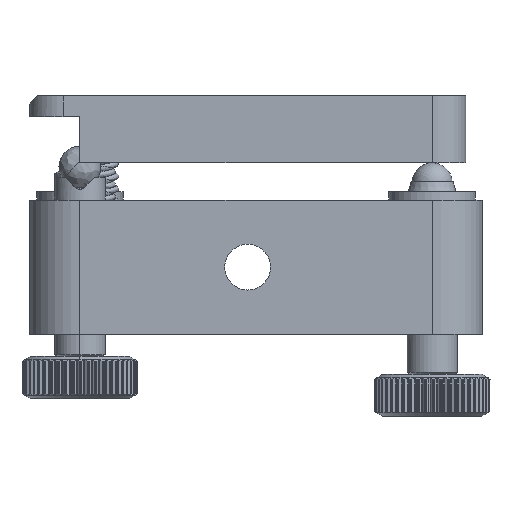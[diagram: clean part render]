
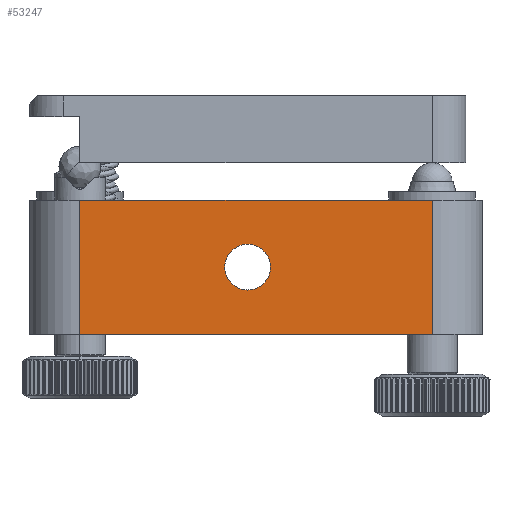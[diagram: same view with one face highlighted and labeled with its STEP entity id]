
A CAD part, front view. The second image highlights one B-rep face of the part: STEP entity #53247.
In plain terms, the highlighted planar face has unit normal (0, -1, 0).
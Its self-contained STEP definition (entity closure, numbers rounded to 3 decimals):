
#19725 = CIRCLE ( 'NONE', #19772, 2.729 ) ;
#19758 = DIRECTION ( 'NONE',  ( 1., 0., 0. ) ) ;
#19759 = DIRECTION ( 'NONE',  ( 0., -1., 0. ) ) ;
#19760 = CARTESIAN_POINT ( 'NONE',  ( 54., -4.502, 0. ) ) ;
#19761 = AXIS2_PLACEMENT_3D ( 'NONE', #19760, #19759, #19758 ) ;
#19762 = PLANE ( 'NONE',  #19761 ) ;
#19763 = FACE_BOUND ( 'NONE', #53284, .T. ) ;
#19764 = FACE_OUTER_BOUND ( 'NONE', #53249, .T. ) ;
#19765 = DIRECTION ( 'NONE',  ( 0., 0., -1. ) ) ;
#19766 = VECTOR ( 'NONE', #19765, 1000. ) ;
#19767 = CARTESIAN_POINT ( 'NONE',  ( 6., -4.502, 0. ) ) ;
#19768 = LINE ( 'NONE', #19767, #19766 ) ;
#19769 = DIRECTION ( 'NONE',  ( 1., 0., 0. ) ) ;
#19770 = DIRECTION ( 'NONE',  ( 0., 1., 0. ) ) ;
#19771 = CARTESIAN_POINT ( 'NONE',  ( 26., -4.502, 8. ) ) ;
#19772 = AXIS2_PLACEMENT_3D ( 'NONE', #19771, #19770, #19769 ) ;
#19808 = DIRECTION ( 'NONE',  ( 1., 0., 0. ) ) ;
#19809 = VECTOR ( 'NONE', #19808, 1000. ) ;
#19810 = CARTESIAN_POINT ( 'NONE',  ( 54., -4.502, 0. ) ) ;
#19818 = LINE ( 'NONE', #19810, #19809 ) ;
#20062 = CARTESIAN_POINT ( 'NONE',  ( 6., -4.502, 0. ) ) ;
#25911 = CARTESIAN_POINT ( 'NONE',  ( 23.271, -4.502, 8. ) ) ;
#26334 = CARTESIAN_POINT ( 'NONE',  ( 26., -4.502, 8. ) ) ;
#26381 = CARTESIAN_POINT ( 'NONE',  ( 28.73, -4.502, 8. ) ) ;
#26382 = DIRECTION ( 'NONE',  ( 1., 0., 0. ) ) ;
#26383 = DIRECTION ( 'NONE',  ( 0., 1., 0. ) ) ;
#26384 = AXIS2_PLACEMENT_3D ( 'NONE', #26334, #26383, #26382 ) ;
#26385 = CIRCLE ( 'NONE', #26384, 2.729 ) ;
#33201 = CARTESIAN_POINT ( 'NONE',  ( 48., -4.502, 0. ) ) ;
#33229 = DIRECTION ( 'NONE',  ( 0., 0., -1. ) ) ;
#33230 = VECTOR ( 'NONE', #33229, 1000. ) ;
#33231 = CARTESIAN_POINT ( 'NONE',  ( 48., -4.502, 0. ) ) ;
#33232 = LINE ( 'NONE', #33231, #33230 ) ;
#33561 = CARTESIAN_POINT ( 'NONE',  ( 48., -4.502, 16. ) ) ;
#46266 = CARTESIAN_POINT ( 'NONE',  ( 6., -4.502, 16. ) ) ;
#46483 = DIRECTION ( 'NONE',  ( 1., 0., 0. ) ) ;
#46484 = VECTOR ( 'NONE', #46483, 1000. ) ;
#46485 = CARTESIAN_POINT ( 'NONE',  ( 18.833, -4.502, 16. ) ) ;
#46486 = LINE ( 'NONE', #46485, #46484 ) ;
#53235 = ORIENTED_EDGE ( 'NONE', *, *, #55174, .T. ) ;
#53238 = ORIENTED_EDGE ( 'NONE', *, *, #53239, .T. ) ;
#53239 = EDGE_CURVE ( 'NONE', #55026, #55175, #19725, .T. ) ;
#53243 = EDGE_CURVE ( 'NONE', #60884, #53369, #19768, .T. ) ;
#53247 = ADVANCED_FACE ( 'NONE', ( #19764, #19763 ), #19762, .T. ) ;
#53249 = EDGE_LOOP ( 'NONE', ( #53250, #53251, #53279, #53280 ) ) ;
#53250 = ORIENTED_EDGE ( 'NONE', *, *, #56498, .F. ) ;
#53251 = ORIENTED_EDGE ( 'NONE', *, *, #60998, .F. ) ;
#53279 = ORIENTED_EDGE ( 'NONE', *, *, #53243, .T. ) ;
#53280 = ORIENTED_EDGE ( 'NONE', *, *, #53283, .T. ) ;
#53283 = EDGE_CURVE ( 'NONE', #53369, #56484, #19818, .T. ) ;
#53284 = EDGE_LOOP ( 'NONE', ( #53235, #53238 ) ) ;
#53369 = VERTEX_POINT ( 'NONE', #20062 ) ;
#55026 = VERTEX_POINT ( 'NONE', #25911 ) ;
#55174 = EDGE_CURVE ( 'NONE', #55175, #55026, #26385, .T. ) ;
#55175 = VERTEX_POINT ( 'NONE', #26381 ) ;
#56484 = VERTEX_POINT ( 'NONE', #33201 ) ;
#56498 = EDGE_CURVE ( 'NONE', #56541, #56484, #33232, .T. ) ;
#56541 = VERTEX_POINT ( 'NONE', #33561 ) ;
#60884 = VERTEX_POINT ( 'NONE', #46266 ) ;
#60998 = EDGE_CURVE ( 'NONE', #60884, #56541, #46486, .T. ) ;
